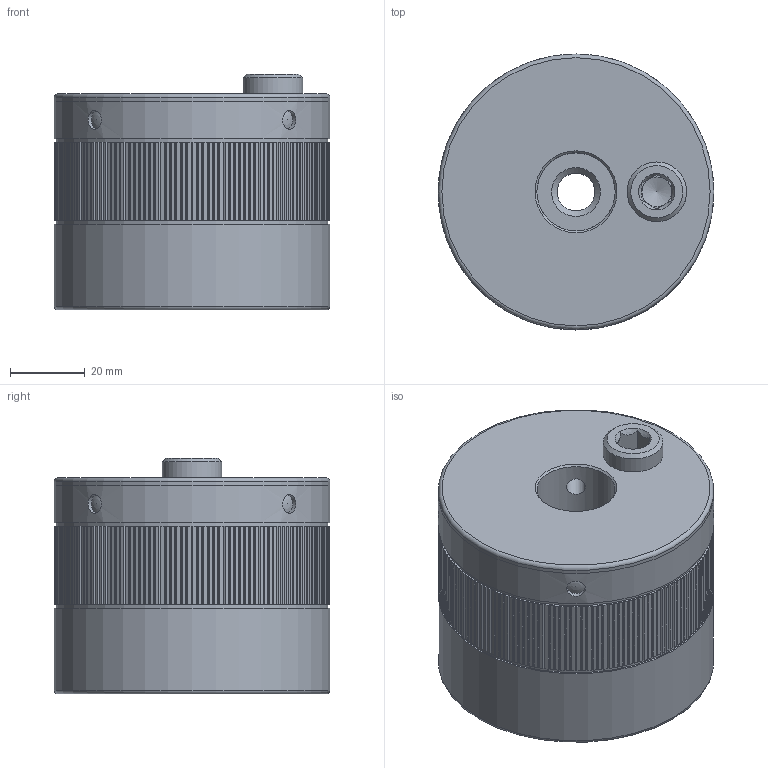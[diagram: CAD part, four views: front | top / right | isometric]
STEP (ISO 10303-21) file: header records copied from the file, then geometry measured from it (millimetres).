
FILE_DESCRIPTION(/* description */ ('Unknown','CAx-IF Rec.Pracs.---Representation and Presentation of Product Manufacturing Information (PMI)---4.0---2014-10-13','CAx-IF Rec.Pracs.---3D Tessellated Geometry---0.4---2014-09-14','2;1'),/* implementation_level */ '2;1');
FILE_NAME(/* name */ 'MDA 60_SW8_M12',/* time_stamp */ '2023-09-15T11:14:56+02:00',/* author */ ('Unknown'),/* organization */ ('Unknown'),/* preprocessor_version */ 'ST-DEVELOPER v18.102',/* originating_system */ 'Solid Edge',/* authorisation */ 'Unknown');
FILE_SCHEMA (('AP242_MANAGED_MODEL_BASED_3D_ENGINEERING_MIM_LF { 1 0 10303 442 1 1 4 }'));
Length unit declared in the file: millimetre
Products named in the file (7): 05933086; 43733042; kt101323; 46331540; 42231968; KT100075; 46431967
Assembly tree (9 placements, depth 2):
  05933086
    43733042
    kt101323
    46331540
    42231968
    KT100075  x4
    46431967
Bounding box: 74 x 74 x 63.3 mm (x, y, z)
Volume: 222451.9 mm3; surface area: 76507.2 mm2
Topology: 9 solids, 9 shells, 602 faces, 1715 edges, 1134 vertices
Faces by surface type: plane 354, cylinder 199, cone 26, torus 9, sphere 8, bspline 6
Full cylindrical faces by diameter (mm): 1.6 x1, 5 x12, 8 x1, 10.106 x1, 16 x2, 16.5 x1, 21 x1, 38 x3, 56.2 x1, 60.7 x1, 62 x1, 66.7 x1, 66.9 x1, 67 x3, 73 x2, 74 x3
Entity records: 19566 total; most frequent: CARTESIAN_POINT 3888, ORIENTED_EDGE 3172, DIRECTION 3150, EDGE_CURVE 1586, LINE 1142, VECTOR 1142, VERTEX_POINT 1092, AXIS2_PLACEMENT_3D 1004
